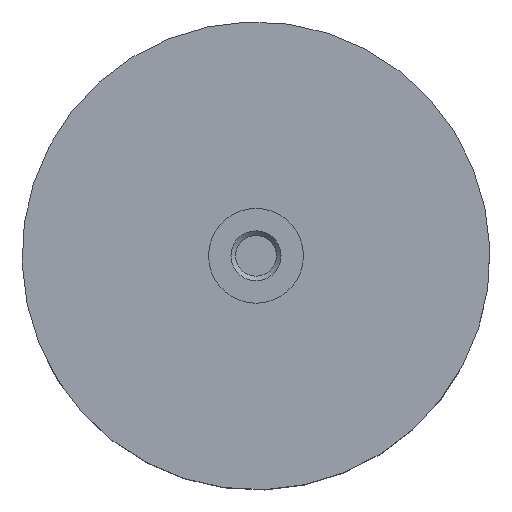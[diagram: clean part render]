
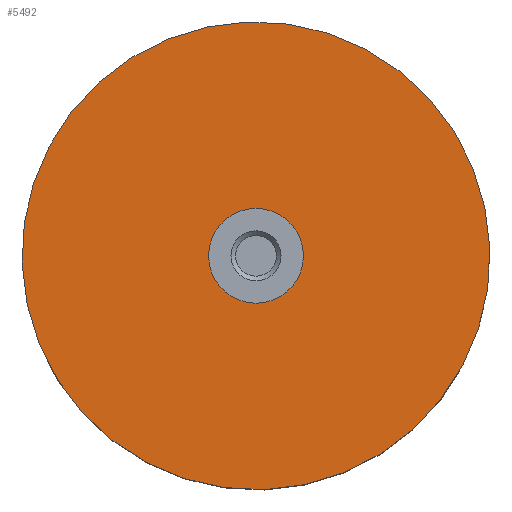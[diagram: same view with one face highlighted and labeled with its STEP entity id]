
A CAD part, top view. The second image highlights one B-rep face of the part: STEP entity #5492.
In plain terms, the highlighted planar face has unit normal (0, 0, 1).
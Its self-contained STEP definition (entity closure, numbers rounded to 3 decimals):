
#110=CARTESIAN_POINT('',(0.,3.848,11.396));
#111=VERTEX_POINT('',#110);
#112=CARTESIAN_POINT('',(0.,0.,11.396));
#113=DIRECTION('',(0.0,0.0,-1.0));
#114=DIRECTION('',(0.0,-1.0,0.0));
#115=AXIS2_PLACEMENT_3D('',#112,#113,#114);
#116=CIRCLE('',#115,3.848);
#117=EDGE_CURVE('',#111,#111,#116,.T.);
#5469=CARTESIAN_POINT('',(18.816,-2.641,11.396));
#5470=VERTEX_POINT('',#5469);
#5471=CARTESIAN_POINT('',(0.,0.0,11.396));
#5472=DIRECTION('',(0.0,0.0,1.0));
#5473=DIRECTION('',(-0.99,0.139,0.0));
#5474=AXIS2_PLACEMENT_3D('',#5471,#5472,#5473);
#5475=CIRCLE('',#5474,19.);
#5476=EDGE_CURVE('',#5470,#5470,#5475,.F.);
#5481=CARTESIAN_POINT('',(0.,0.,11.396));
#5482=DIRECTION('',(0.0,0.0,-1.0));
#5483=DIRECTION('',(-1.0,0.0,0.0));
#5484=AXIS2_PLACEMENT_3D('',#5481,#5482,#5483);
#5485=PLANE('',#5484);
#5486=ORIENTED_EDGE('',*,*,#5476,.F.);
#5487=EDGE_LOOP('',(#5486));
#5488=FACE_OUTER_BOUND('',#5487,.T.);
#5489=ORIENTED_EDGE('',*,*,#117,.T.);
#5490=EDGE_LOOP('',(#5489));
#5491=FACE_BOUND('',#5490,.T.);
#5492=ADVANCED_FACE('',(#5488,#5491),#5485,.F.);
